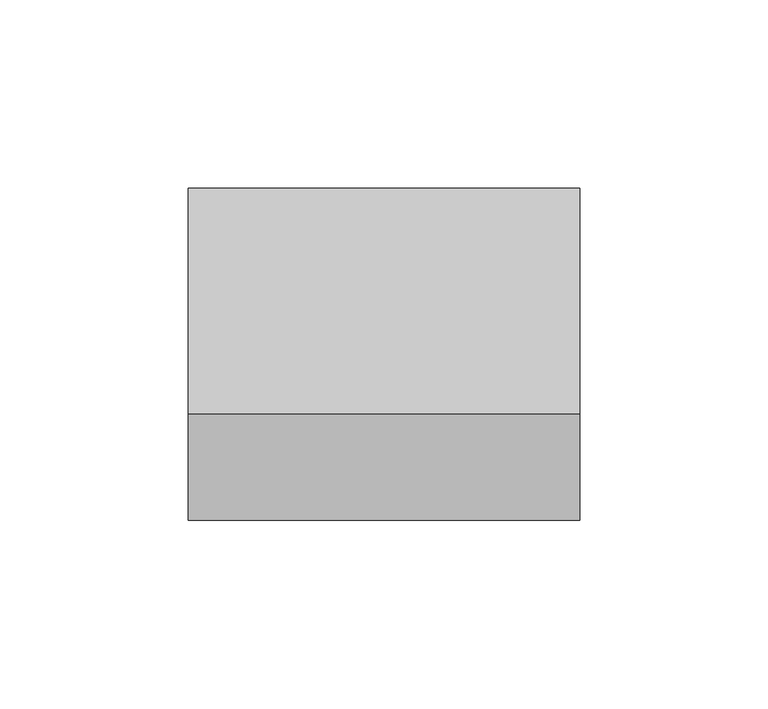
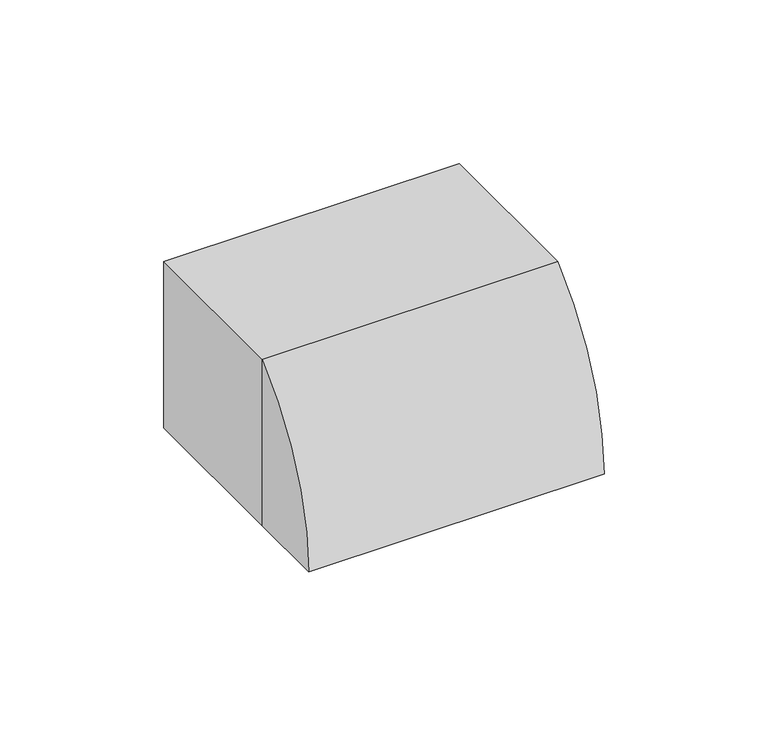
"""IFC4 building model written with IfcOpenShell, lengths in millimetres: proxy geometry, Заглушка_кабельной_трассы КМЗ : Заглушка кабельной трассы КМЗ 100х60."""

from ifc_helpers import new_model, si_unit, frame, origin, place, context, project, spatial, polyline, circle_curve, outline, extrude, source, transform, mapped, element, save
from ifc_brep_helpers import plane_surface, cylinder_surface, revolved_surface, advanced_brep


def generic_models_c4cd83af(model_context):
    return source(origin(), model_context, "Body", "SolidModel", [
        advanced_brep(
        [(52.0, -60.0, 0.0), (52.0, -60.0, 62.0), (52.0, -88.1972789, 0.0), (-52.0, -60.0, 0.0), (-52.0, -88.1972789, 0.0), (-52.0, -60.0, 62.0), (50.0, -60.0, 0.0), (50.0, -60.0, 60.0), (-50.0, -60.0, 60.0), (-50.0, -60.0, 0.0), (-50.0, -86.8735715, 0.0), (50.0, -86.8735715, 0.0)],
        [
            (0, 1),
            (1, 2, circle_curve(frame((52.0, -5.1340485, -0.3647388), z_axis=(1.0, 0.0, 0.0), x_axis=(0.0, 1.0, 0.0)), 83.0640312)),
            (2, 0),
            (3, 4),
            (4, 5, circle_curve(frame((-52.0, -5.1340485, -0.3647388), z_axis=(-1.0, 0.0, 0.0), x_axis=(0.0, 1.0, 0.0)), 83.0640312)),
            (5, 3),
            (0, 6),
            (6, 7),
            (7, 8),
            (8, 9),
            (9, 3),
            (5, 1),
            (4, 2),
            (9, 10),
            (10, 11),
            (11, 6),
            (11, 7, circle_curve(frame((50.0, -4.8124322, -0.7363579), z_axis=(-1.0, 0.0, 0.0), x_axis=(0.0, 1.0, 0.0)), 82.064443)),
            (8, 10, circle_curve(frame((-50.0, -4.8124322, -0.7363579), z_axis=(1.0, 0.0, 0.0), x_axis=(0.0, 1.0, 0.0)), 82.064443)),
        ],
        [
            plane_surface(frame((52.0, -60.0, 62.0), z_axis=(1.0, 0.0, 0.0), x_axis=(0.0, 0.0, 1.0))),
            plane_surface(frame((-52.0, -60.0, 62.0), z_axis=(-1.0, 0.0, 0.0), x_axis=(0.0, 0.0, -1.0))),
            plane_surface(frame((52.0, -60.0, 0.0), z_axis=(0.0, 1.0, 0.0), x_axis=(-1.0, 0.0, 0.0))),
            cylinder_surface(frame((-52.0, -5.1340485, -0.3647388), z_axis=(1.0, 0.0, 0.0), x_axis=(0.0, 1.0, 0.0)), 83.0640312),
            plane_surface(frame((52.0, -88.1972789, 0.0), z_axis=(0.0, 0.0, -1.0), x_axis=(-1.0, 0.0, 0.0))),
            plane_surface(frame((50.0, -60.0, 60.0), z_axis=(-1.0, 0.0, 0.0), x_axis=(0.0, 0.0, 1.0))),
            plane_surface(frame((-50.0, -60.0, 60.0), z_axis=(1.0, 0.0, 0.0), x_axis=(0.0, 0.0, -1.0))),
            revolved_surface(polyline([(50.0, 77.2520108, -0.7363579), (-50.0, 77.2520108, -0.7363579)]), (-50.0, -4.8124322, -0.7363579), (1.0, 0.0, 0.0)),
        ],
        [
            (0, [[1, 2, 3]]),
            (1, [[4, 5, 6]]),
            (2, [[-1, 7, 8, 9, 10, 11, -6, 12]]),
            (3, [[-2, -12, -5, 13]]),
            (4, [[-3, -13, -4, -11, 14, 15, 16, -7]]),
            (5, [[17, -8, -16]]),
            (6, [[18, -14, -10]]),
            (7, [[-17, -15, -18, -9]]),
        ],
    ),
        extrude(outline(polyline([(62.0, 52.0), (62.0, -52.0), (0.0, -52.0), (0.0, -50.0), (60.0, -50.0), (60.0, 50.0), (0.0, 50.0), (0.0, 52.0), (62.0, 52.0)])), frame((0.0, -60.0, 0.0), z_axis=(0.0, 1.0, 0.0), x_axis=(0.0, 0.0, 1.0)), (0.0, 0.0, 1.0), 60.0),
    ])


if __name__ == "__main__":
    model = new_model("IFC4")
    model_context = context("Model", 3, world=origin())
    ifc_project = project(units=[si_unit("LENGTHUNIT", "METRE", prefix="MILLI")], contexts=[model_context])
    site = spatial("IfcSite", under=ifc_project)
    building = spatial("IfcBuilding", under=site)
    placement = place(None, origin())
    generic_models_shape = generic_models_c4cd83af(model_context)
    element("IfcBuildingElementProxy", 1, Name="Заглушка_кабельной_трассы КМЗ : Заглушка кабельной трассы КМЗ 100х60", ObjectType="Заглушка_кабельной_трассы КМЗ : Заглушка кабельной трассы КМЗ 100х60", at=placement, inside=building, context=model_context, shape_type="MappedRepresentation", body=[
        mapped(generic_models_shape, transform((0.0, 0.0, 0.0), x_axis=(1.0, 0.0, 0.0), y_axis=(0.0, 1.0, 0.0), z_axis=(0.0, 0.0, 1.0))),
    ])
    save(model, "model.ifc")
